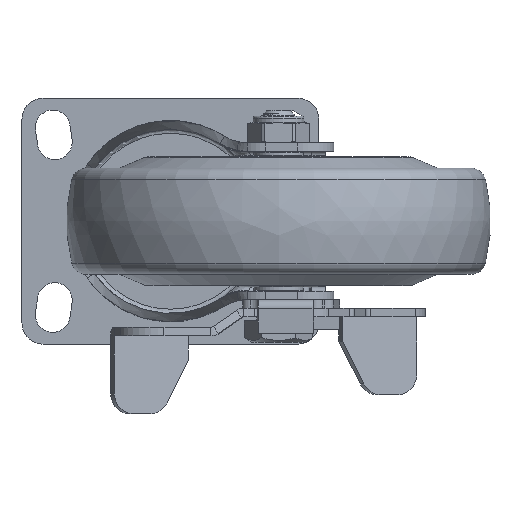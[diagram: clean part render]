
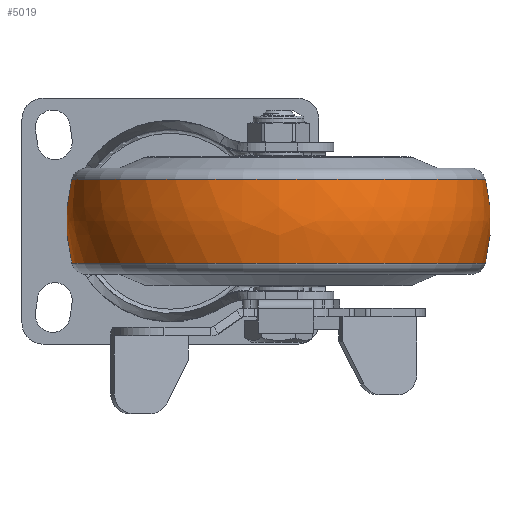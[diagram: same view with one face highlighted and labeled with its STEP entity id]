
A CAD part, front view. The second image highlights one B-rep face of the part: STEP entity #5019.
In plain terms, the highlighted free-form (B-spline) face has degree [3, 3] with [7, 4] control points.
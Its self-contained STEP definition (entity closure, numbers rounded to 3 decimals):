
#4521=CARTESIAN_POINT('',(0.,10.,0.));
#4522=DIRECTION('',(0.,0.,1.));
#4523=DIRECTION('',(0.247,0.969,0.));
#4524=AXIS2_PLACEMENT_3D('',#4521,#4522,#4523);
#4526=CARTESIAN_POINT('',(0.,-10.,0.));
#4527=DIRECTION('',(0.,0.,-1.));
#4528=DIRECTION('',(0.247,-0.969,0.));
#4529=AXIS2_PLACEMENT_3D('',#4526,#4527,#4528);
#4531=CARTESIAN_POINT('',(9.863,0.,0.));
#4532=DIRECTION('',(-1.,0.,0.));
#4533=DIRECTION('',(0.,1.,0.));
#4534=AXIS2_PLACEMENT_3D('',#4531,#4532,#4533);
#4556=CARTESIAN_POINT('',(-9.863,0.,0.));
#4557=DIRECTION('',(-1.,0.,0.));
#4558=DIRECTION('',(0.,1.,0.));
#4559=AXIS2_PLACEMENT_3D('',#4556,#4557,#4558);
#4710=CARTESIAN_POINT('',(9.863,48.765,0.));
#4712=VERTEX_POINT('',#4710);
#4713=CARTESIAN_POINT('',(-9.863,48.765,0.));
#4714=VERTEX_POINT('',#4713);
#4750=CARTESIAN_POINT('',(9.863,-48.765,
0.));
#4752=VERTEX_POINT('',#4750);
#4753=CARTESIAN_POINT('',(-9.863,-48.765,
0.));
#4754=VERTEX_POINT('',#4753);
#4981=CARTESIAN_POINT('',(-10.249,-48.569,
3.056));
#4982=CARTESIAN_POINT('',(-3.494,-50.356,
3.168));
#4983=CARTESIAN_POINT('',(3.494,-50.356,3.168));
#4984=CARTESIAN_POINT('',(10.249,-48.569,3.056));
#4985=CARTESIAN_POINT('',(-10.249,-50.449,
-26.833));
#4986=CARTESIAN_POINT('',(-3.494,-52.305,
-27.821));
#4987=CARTESIAN_POINT('',(3.494,-52.305,
-27.821));
#4988=CARTESIAN_POINT('',(10.249,-50.449,
-26.833));
#4989=CARTESIAN_POINT('',(-10.249,-29.948,
-48.665));
#4990=CARTESIAN_POINT('',(-3.494,-31.05,
-50.455));
#4991=CARTESIAN_POINT('',(3.494,-31.05,
-50.455));
#4992=CARTESIAN_POINT('',(10.249,-29.948,
-48.665));
#4993=CARTESIAN_POINT('',(-10.249,0.,
-48.665));
#4994=CARTESIAN_POINT('',(-3.494,0.,
-50.455));
#4995=CARTESIAN_POINT('',(3.494,0.,
-50.455));
#4996=CARTESIAN_POINT('',(10.249,0.,
-48.665));
#4997=CARTESIAN_POINT('',(-10.249,29.948,
-48.665));
#4998=CARTESIAN_POINT('',(-3.494,31.05,
-50.455));
#4999=CARTESIAN_POINT('',(3.494,31.05,-50.455));
#5000=CARTESIAN_POINT('',(10.249,29.948,-48.665));
#5001=CARTESIAN_POINT('',(-10.249,50.449,
-26.833));
#5002=CARTESIAN_POINT('',(-3.494,52.305,
-27.821));
#5003=CARTESIAN_POINT('',(3.494,52.305,-27.821));
#5004=CARTESIAN_POINT('',(10.249,50.449,-26.833));
#5005=CARTESIAN_POINT('',(-10.249,48.569,3.056));
#5006=CARTESIAN_POINT('',(-3.494,50.356,3.168));
#5007=CARTESIAN_POINT('',(3.494,50.356,3.168));
#5008=CARTESIAN_POINT('',(10.249,48.569,3.056));
#5009=(BOUNDED_SURFACE()B_SPLINE_SURFACE(3,3,((#4981,#4982,#4983,#4984),(#4985,
#4986,#4987,#4988),(#4989,#4990,#4991,#4992),(#4993,#4994,#4995,#4996),(#4997,
#4998,#4999,#5000),(#5001,#5002,#5003,#5004),(#5005,#5006,#5007,#5008)),
.UNSPECIFIED.,.F.,.F.,.F.)B_SPLINE_SURFACE_WITH_KNOTS((4,3,4),(4,4),(0.,1.,
2.),(0.,1.),.UNSPECIFIED.)GEOMETRIC_REPRESENTATION_ITEM()RATIONAL_B_SPLINE_SURFACE(((1.207,1.181,1.181,1.207),(
0.953,0.932,0.932,0.953),(
0.953,0.932,0.932,0.953),(
1.207,1.181,1.181,1.207),(
0.953,0.932,0.932,0.953),(
0.953,0.932,0.932,0.953),(
1.207,1.181,1.181,1.207)))REPRESENTATION_ITEM('')SURFACE());
#5011=ORIENTED_EDGE('',*,*,#5010,.T.);
#5013=ORIENTED_EDGE('',*,*,#5012,.T.);
#5015=ORIENTED_EDGE('',*,*,#5014,.F.);
#5016=ORIENTED_EDGE('',*,*,#4974,.F.);
#5017=EDGE_LOOP('',(#5011,#5013,#5015,#5016));
#5018=FACE_OUTER_BOUND('',#5017,.F.);
#4525=CIRCLE('',#4524,40.);
#4530=CIRCLE('',#4529,40.);
#4535=CIRCLE('',#4534,48.765);
#4560=CIRCLE('',#4559,48.765);
#4974=EDGE_CURVE('',#4712,#4752,#4535,.T.);
#5010=EDGE_CURVE('',#4712,#4714,#4525,.T.);
#5012=EDGE_CURVE('',#4714,#4754,#4560,.T.);
#5014=EDGE_CURVE('',#4752,#4754,#4530,.T.);
#5019=ADVANCED_FACE('',(#5018),#5009,.T.);
